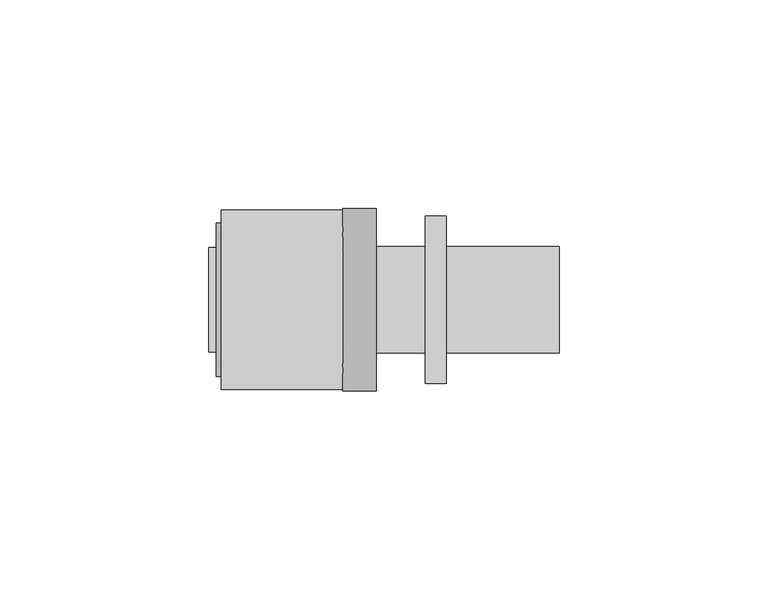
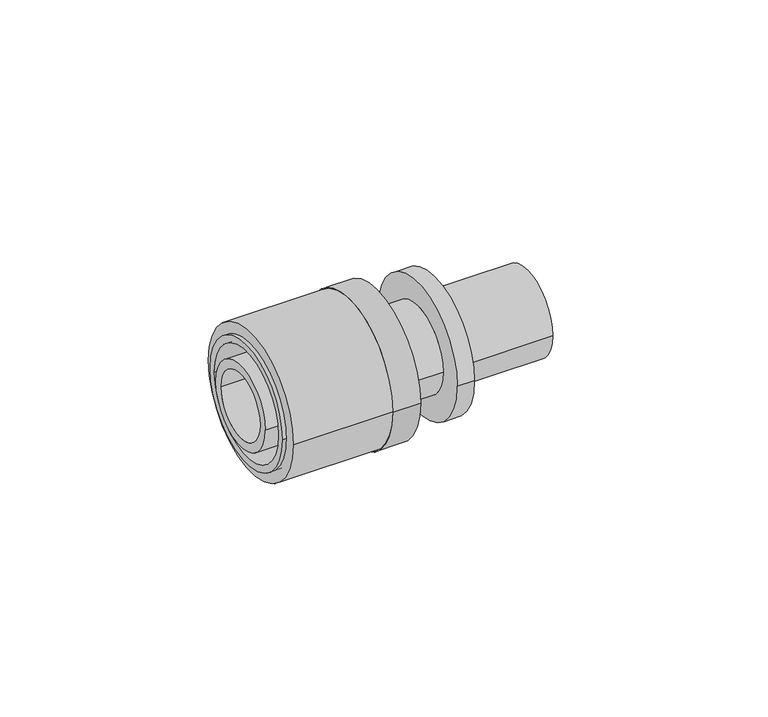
"""IFC4 building model written with IfcOpenShell, lengths in millimetres: pipe fitting geometry, FASTLOC_Adapter coupling EX+ : FSL TC EX+ AT."""

from ifc_helpers import new_model, si_unit, point, frame, origin, origin_2d, place, context, project, spatial, polyline, circle_curve, trimmed, segment, composite_curve, outline, extrude, source, transform, mapped, element, save
from ifc_brep_helpers import plane_surface, cylinder_surface, revolved_surface, advanced_brep


def pipe_fitting_beb2161e(model_context):
    return source(origin(), model_context, "Body", "SolidModel", [
        extrude(outline(composite_curve([segment(trimmed(circle_curve(origin_2d(), 21.5), [point((21.5, 0.0))], [point((-21.5, 0.0))], False, "CARTESIAN"), True, "CONTINUOUS"), segment(trimmed(circle_curve(origin_2d(), 21.5), [point((-21.5, 0.0))], [point((21.5, 0.0))], False, "CARTESIAN"), True, "CONTINUOUS")], self_intersect=False), holes=[composite_curve([segment(trimmed(circle_curve(origin_2d(), 16.85), [point((16.85, 0.0))], [point((-16.85, 0.0))], True, "CARTESIAN"), True, "CONTINUOUS"), segment(trimmed(circle_curve(origin_2d(), 16.85), [point((-16.85, 0.0))], [point((16.85, 0.0))], True, "CARTESIAN"), True, "CONTINUOUS")], self_intersect=False)]), frame((-34.5, 0.0, 0.0), z_axis=(1.0, 0.0, 0.0), x_axis=(0.0, 1.0, 0.0)), (0.0, 0.0, 1.0), 29.0),
        advanced_brep(
        [(-5.5, -21.8, 0.0), (-5.5, 21.8, 0.0), (2.5, 21.8, 0.0), (2.5, -21.8, 0.0), (-35.8, -18.35, 0.0), (-35.8, 18.35, 0.0), (-5.5, 18.35, 0.0), (-5.5, -18.35, 0.0), (2.5, -16.2, 0.0), (2.5, 16.2, 0.0), (-35.8, 16.2, 0.0), (-35.8, -16.2, 0.0)],
        [
            (0, 1, circle_curve(frame((-5.5, 0.0, 0.0), z_axis=(1.0, 0.0, 0.0), x_axis=(0.0, 1.0, 0.0)), 21.8)),
            (1, 2),
            (2, 3, circle_curve(frame((2.5, 0.0, 0.0), z_axis=(-1.0, 0.0, 0.0), x_axis=(0.0, 1.0, 0.0)), 21.8)),
            (3, 0),
            (4, 5, circle_curve(frame((-35.8, 0.0, 0.0), z_axis=(1.0, 0.0, 0.0), x_axis=(0.0, 1.0, 0.0)), 18.35)),
            (5, 6),
            (6, 7, circle_curve(frame((-5.5, 0.0, 0.0), z_axis=(-1.0, 0.0, 0.0), x_axis=(0.0, 1.0, 0.0)), 18.35)),
            (7, 4),
            (8, 9, circle_curve(frame((2.5, 0.0, 0.0), z_axis=(1.0, 0.0, 0.0), x_axis=(0.0, 1.0, 0.0)), 16.2)),
            (9, 10),
            (10, 11, circle_curve(frame((-35.8, 0.0, 0.0), z_axis=(-1.0, 0.0, 0.0), x_axis=(0.0, 1.0, 0.0)), 16.2)),
            (11, 8),
            (1, 0, circle_curve(frame((-5.5, 0.0, 0.0), z_axis=(1.0, 0.0, 0.0), x_axis=(0.0, -1.0, 0.0)), 21.8)),
            (3, 2, circle_curve(frame((2.5, 0.0, 0.0), z_axis=(-1.0, 0.0, 0.0), x_axis=(0.0, -1.0, 0.0)), 21.8)),
            (6, 7, circle_curve(frame((-5.5, 0.0, 0.0), z_axis=(1.0, 0.0, 0.0), x_axis=(0.0, -1.0, 0.0)), 18.35)),
            (5, 4, circle_curve(frame((-35.8, 0.0, 0.0), z_axis=(1.0, 0.0, 0.0), x_axis=(0.0, -1.0, 0.0)), 18.35)),
            (10, 11, circle_curve(frame((-35.8, 0.0, 0.0), z_axis=(1.0, 0.0, 0.0), x_axis=(0.0, -1.0, 0.0)), 16.2)),
            (9, 8, circle_curve(frame((2.5, 0.0, 0.0), z_axis=(1.0, 0.0, 0.0), x_axis=(0.0, -1.0, 0.0)), 16.2)),
        ],
        [
            cylinder_surface(frame((2.5, 0.0, 0.0), z_axis=(-1.0, 0.0, 0.0), x_axis=(0.0, 1.0, 0.0)), 21.8),
            cylinder_surface(frame((2.5, 0.0, 0.0), z_axis=(-1.0, 0.0, 0.0), x_axis=(0.0, 1.0, 0.0)), 18.35),
            revolved_surface(polyline([(-35.8, 16.2, 0.0), (2.5, 16.2, 0.0)]), (2.5, 0.0, 0.0), (-1.0, 0.0, 0.0)),
            cylinder_surface(frame((2.5, 0.0, 0.0), z_axis=(-1.0, 0.0, 0.0), x_axis=(0.0, -1.0, 0.0)), 21.8),
            plane_surface(frame((-5.5, 0.0, 0.0), z_axis=(-1.0, 0.0, 0.0), x_axis=(0.0, -1.0, 0.0))),
            cylinder_surface(frame((2.5, 0.0, 0.0), z_axis=(-1.0, 0.0, 0.0), x_axis=(0.0, -1.0, 0.0)), 18.35),
            plane_surface(frame((-35.8, 0.0, 0.0), z_axis=(-1.0, 0.0, 0.0), x_axis=(0.0, -1.0, 0.0))),
            revolved_surface(polyline([(-35.8, -16.2, 0.0), (2.5, -16.2, 0.0)]), (2.5, 0.0, 0.0), (-1.0, 0.0, 0.0)),
            plane_surface(frame((2.5, 0.0, 0.0), z_axis=(1.0, 0.0, 0.0), x_axis=(0.0, -1.0, 0.0))),
        ],
        [
            (0, [[1, 2, 3, 4]]),
            (1, [[5, 6, 7, 8]]),
            (2, [[9, 10, 11, 12]]),
            (3, [[13, -4, 14, -2]]),
            (4, [[-13, -1], [15, -7]]),
            (5, [[16, -8, -15, -6]]),
            (6, [[-16, -5], [17, -11]]),
            (7, [[18, -12, -17, -10]]),
            (8, [[-14, -3], [-18, -9]]),
        ],
    ),
        advanced_brep(
        [(0.0, 9.85, 0.0), (0.0, -9.85, 0.0), (46.3, -9.85, 0.0), (46.3, 9.85, 0.0), (14.3, 12.75, 0.0), (14.3, -12.75, 0.0), (0.0, -12.75, 0.0), (0.0, 12.75, 0.0), (19.3, 20.0, 0.0), (19.3, -20.0, 0.0), (14.3, -20.0, 0.0), (14.3, 20.0, 0.0), (46.3, 12.75, 0.0), (46.3, -12.75, 0.0), (19.3, -12.75, 0.0), (19.3, 12.75, 0.0)],
        [
            (0, 1, circle_curve(frame((0.0, 0.0, 0.0), z_axis=(-1.0, 0.0, 0.0), x_axis=(0.0, -1.0, 0.0)), 9.85)),
            (1, 2),
            (2, 3, circle_curve(frame((46.3, 0.0, 0.0), z_axis=(1.0, 0.0, 0.0), x_axis=(0.0, -1.0, 0.0)), 9.85)),
            (3, 0),
            (4, 5, circle_curve(frame((14.3, 0.0, 0.0), z_axis=(-1.0, 0.0, 0.0), x_axis=(0.0, -1.0, 0.0)), 12.75)),
            (5, 6),
            (6, 7, circle_curve(frame((0.0, 0.0, 0.0), z_axis=(1.0, 0.0, 0.0), x_axis=(0.0, -1.0, 0.0)), 12.75)),
            (7, 4),
            (8, 9, circle_curve(frame((19.3, 0.0, 0.0), z_axis=(-1.0, 0.0, 0.0), x_axis=(0.0, -1.0, 0.0)), 20.0)),
            (9, 10),
            (10, 11, circle_curve(frame((14.3, 0.0, 0.0), z_axis=(1.0, 0.0, 0.0), x_axis=(0.0, -1.0, 0.0)), 20.0)),
            (11, 8),
            (12, 13, circle_curve(frame((46.3, 0.0, 0.0), z_axis=(-1.0, 0.0, 0.0), x_axis=(0.0, -1.0, 0.0)), 12.75)),
            (13, 14),
            (14, 15, circle_curve(frame((19.3, 0.0, 0.0), z_axis=(1.0, 0.0, 0.0), x_axis=(0.0, -1.0, 0.0)), 12.75)),
            (15, 12),
            (1, 0, circle_curve(frame((0.0, 0.0, 0.0), z_axis=(-1.0, 0.0, 0.0), x_axis=(0.0, 1.0, 0.0)), 9.85)),
            (3, 2, circle_curve(frame((46.3, 0.0, 0.0), z_axis=(1.0, 0.0, 0.0), x_axis=(0.0, 1.0, 0.0)), 9.85)),
            (6, 7, circle_curve(frame((0.0, 0.0, 0.0), z_axis=(-1.0, 0.0, 0.0), x_axis=(0.0, 1.0, 0.0)), 12.75)),
            (5, 4, circle_curve(frame((14.3, 0.0, 0.0), z_axis=(-1.0, 0.0, 0.0), x_axis=(0.0, 1.0, 0.0)), 12.75)),
            (10, 11, circle_curve(frame((14.3, 0.0, 0.0), z_axis=(-1.0, 0.0, 0.0), x_axis=(0.0, 1.0, 0.0)), 20.0)),
            (9, 8, circle_curve(frame((19.3, 0.0, 0.0), z_axis=(-1.0, 0.0, 0.0), x_axis=(0.0, 1.0, 0.0)), 20.0)),
            (14, 15, circle_curve(frame((19.3, 0.0, 0.0), z_axis=(-1.0, 0.0, 0.0), x_axis=(0.0, 1.0, 0.0)), 12.75)),
            (13, 12, circle_curve(frame((46.3, 0.0, 0.0), z_axis=(-1.0, 0.0, 0.0), x_axis=(0.0, 1.0, 0.0)), 12.75)),
        ],
        [
            revolved_surface(polyline([(46.3, -9.85, 0.0), (0.0, -9.85, 0.0)]), (0.0, 0.0, 0.0), (1.0, 0.0, 0.0)),
            cylinder_surface(frame((0.0, 0.0, 0.0), z_axis=(1.0, 0.0, 0.0), x_axis=(0.0, -1.0, 0.0)), 12.75),
            cylinder_surface(frame((0.0, 0.0, 0.0), z_axis=(1.0, 0.0, 0.0), x_axis=(0.0, -1.0, 0.0)), 20.0),
            revolved_surface(polyline([(46.3, 9.85, 0.0), (0.0, 9.85, 0.0)]), (0.0, 0.0, 0.0), (1.0, 0.0, 0.0)),
            plane_surface(frame((0.0, 0.0, 0.0), z_axis=(-1.0, 0.0, 0.0), x_axis=(0.0, 1.0, 0.0))),
            cylinder_surface(frame((0.0, 0.0, 0.0), z_axis=(1.0, 0.0, 0.0), x_axis=(0.0, 1.0, 0.0)), 12.75),
            plane_surface(frame((14.3, 0.0, 0.0), z_axis=(-1.0, 0.0, 0.0), x_axis=(0.0, 1.0, 0.0))),
            cylinder_surface(frame((0.0, 0.0, 0.0), z_axis=(1.0, 0.0, 0.0), x_axis=(0.0, 1.0, 0.0)), 20.0),
            plane_surface(frame((19.3, 0.0, 0.0), z_axis=(1.0, 0.0, 0.0), x_axis=(0.0, 1.0, 0.0))),
            plane_surface(frame((46.3, 0.0, 0.0), z_axis=(1.0, 0.0, 0.0), x_axis=(0.0, 1.0, 0.0))),
        ],
        [
            (0, [[1, 2, 3, 4]]),
            (1, [[5, 6, 7, 8]]),
            (2, [[9, 10, 11, 12]]),
            (1, [[13, 14, 15, 16]]),
            (3, [[17, -4, 18, -2]]),
            (4, [[19, -7], [-17, -1]]),
            (5, [[20, -8, -19, -6]]),
            (6, [[21, -11], [-20, -5]]),
            (7, [[22, -12, -21, -10]]),
            (8, [[-22, -9], [23, -15]]),
            (5, [[24, -16, -23, -14]]),
            (9, [[-24, -13], [-18, -3]]),
        ],
    ),
        advanced_brep(
        [(-5.5, 12.5, 0.0), (-5.5, -12.5, 0.0), (-37.5, -12.5, 0.0), (-37.5, 12.5, 0.0), (-2.5, 14.1, 0.0), (-2.5, -14.1, 0.0), (-5.5, -14.1, 0.0), (-5.5, 14.1, 0.0), (0.0, 12.5, 0.0), (0.0, -12.5, 0.0), (-2.5, -12.5, 0.0), (-2.5, 12.5, 0.0), (-37.5, 9.85, 0.0), (-37.5, -9.85, 0.0), (0.0, -9.85, 0.0), (0.0, 9.85, 0.0)],
        [
            (0, 1, circle_curve(frame((-5.5, 0.0, 0.0), z_axis=(-1.0, 0.0, 0.0), x_axis=(0.0, -1.0, 0.0)), 12.5)),
            (1, 2),
            (2, 3, circle_curve(frame((-37.5, 0.0, 0.0), z_axis=(1.0, 0.0, 0.0), x_axis=(0.0, -1.0, 0.0)), 12.5)),
            (3, 0),
            (4, 5, circle_curve(frame((-2.5, 0.0, 0.0), z_axis=(-1.0, 0.0, 0.0), x_axis=(0.0, -1.0, 0.0)), 14.1)),
            (5, 6),
            (6, 7, circle_curve(frame((-5.5, 0.0, 0.0), z_axis=(1.0, 0.0, 0.0), x_axis=(0.0, -1.0, 0.0)), 14.1)),
            (7, 4),
            (8, 9, circle_curve(frame((0.0, 0.0, 0.0), z_axis=(-1.0, 0.0, 0.0), x_axis=(0.0, -1.0, 0.0)), 12.5)),
            (9, 10),
            (10, 11, circle_curve(frame((-2.5, 0.0, 0.0), z_axis=(1.0, 0.0, 0.0), x_axis=(0.0, -1.0, 0.0)), 12.5)),
            (11, 8),
            (12, 13, circle_curve(frame((-37.5, 0.0, 0.0), z_axis=(-1.0, 0.0, 0.0), x_axis=(0.0, -1.0, 0.0)), 9.85)),
            (13, 14),
            (14, 15, circle_curve(frame((0.0, 0.0, 0.0), z_axis=(1.0, 0.0, 0.0), x_axis=(0.0, -1.0, 0.0)), 9.85)),
            (15, 12),
            (2, 3, circle_curve(frame((-37.5, 0.0, 0.0), z_axis=(-1.0, 0.0, 0.0), x_axis=(0.0, 1.0, 0.0)), 12.5)),
            (12, 13, circle_curve(frame((-37.5, 0.0, 0.0), z_axis=(1.0, 0.0, 0.0), x_axis=(0.0, 1.0, 0.0)), 9.85)),
            (1, 0, circle_curve(frame((-5.5, 0.0, 0.0), z_axis=(-1.0, 0.0, 0.0), x_axis=(0.0, 1.0, 0.0)), 12.5)),
            (6, 7, circle_curve(frame((-5.5, 0.0, 0.0), z_axis=(-1.0, 0.0, 0.0), x_axis=(0.0, 1.0, 0.0)), 14.1)),
            (5, 4, circle_curve(frame((-2.5, 0.0, 0.0), z_axis=(-1.0, 0.0, 0.0), x_axis=(0.0, 1.0, 0.0)), 14.1)),
            (10, 11, circle_curve(frame((-2.5, 0.0, 0.0), z_axis=(-1.0, 0.0, 0.0), x_axis=(0.0, 1.0, 0.0)), 12.5)),
            (9, 8, circle_curve(frame((0.0, 0.0, 0.0), z_axis=(-1.0, 0.0, 0.0), x_axis=(0.0, 1.0, 0.0)), 12.5)),
            (14, 15, circle_curve(frame((0.0, 0.0, 0.0), z_axis=(-1.0, 0.0, 0.0), x_axis=(0.0, 1.0, 0.0)), 9.85)),
        ],
        [
            cylinder_surface(frame((0.0, 0.0, 0.0), z_axis=(1.0, 0.0, 0.0), x_axis=(0.0, -1.0, 0.0)), 12.5),
            cylinder_surface(frame((0.0, 0.0, 0.0), z_axis=(1.0, 0.0, 0.0), x_axis=(0.0, -1.0, 0.0)), 14.1),
            revolved_surface(polyline([(0.0, -9.85, 0.0), (-37.5, -9.85, 0.0)]), (0.0, 0.0, 0.0), (1.0, 0.0, 0.0)),
            plane_surface(frame((-37.5, 0.0, 0.0), z_axis=(-1.0, 0.0, 0.0), x_axis=(0.0, 1.0, 0.0))),
            cylinder_surface(frame((0.0, 0.0, 0.0), z_axis=(1.0, 0.0, 0.0), x_axis=(0.0, 1.0, 0.0)), 12.5),
            plane_surface(frame((-5.5, 0.0, 0.0), z_axis=(-1.0, 0.0, 0.0), x_axis=(0.0, 1.0, 0.0))),
            cylinder_surface(frame((0.0, 0.0, 0.0), z_axis=(1.0, 0.0, 0.0), x_axis=(0.0, 1.0, 0.0)), 14.1),
            plane_surface(frame((-2.5, 0.0, 0.0), z_axis=(1.0, 0.0, 0.0), x_axis=(0.0, 1.0, 0.0))),
            plane_surface(frame((0.0, 0.0, 0.0), z_axis=(1.0, 0.0, 0.0), x_axis=(0.0, 1.0, 0.0))),
            revolved_surface(polyline([(0.0, 9.85, 0.0), (-37.5, 9.85, 0.0)]), (0.0, 0.0, 0.0), (1.0, 0.0, 0.0)),
        ],
        [
            (0, [[1, 2, 3, 4]]),
            (1, [[5, 6, 7, 8]]),
            (0, [[9, 10, 11, 12]]),
            (2, [[13, 14, 15, 16]]),
            (3, [[17, -3], [18, -13]]),
            (4, [[19, -4, -17, -2]]),
            (5, [[20, -7], [-19, -1]]),
            (6, [[21, -8, -20, -6]]),
            (7, [[-21, -5], [22, -11]]),
            (4, [[23, -12, -22, -10]]),
            (8, [[-23, -9], [24, -15]]),
            (9, [[-18, -16, -24, -14]]),
        ],
    ),
    ])


if __name__ == "__main__":
    model = new_model("IFC4")
    model_context = context("Model", 3, world=origin())
    ifc_project = project(units=[si_unit("LENGTHUNIT", "METRE", prefix="MILLI")], contexts=[model_context])
    site = spatial("IfcSite", under=ifc_project)
    building = spatial("IfcBuilding", under=site)
    placement = place(None, origin())
    pipe_fitting_shape = pipe_fitting_beb2161e(model_context)
    element("IfcPipeFitting", 1, ObjectType="FASTLOC_Adapter coupling EX+ : FSL TC EX+ AT", at=placement, inside=building, context=model_context, shape_type="MappedRepresentation", body=[
        mapped(pipe_fitting_shape, transform((0.0, 0.0, 0.0), x_axis=(1.0, 0.0, 0.0), y_axis=(0.0, 1.0, 0.0), z_axis=(0.0, 0.0, 1.0))),
    ])
    save(model, "model.ifc")
